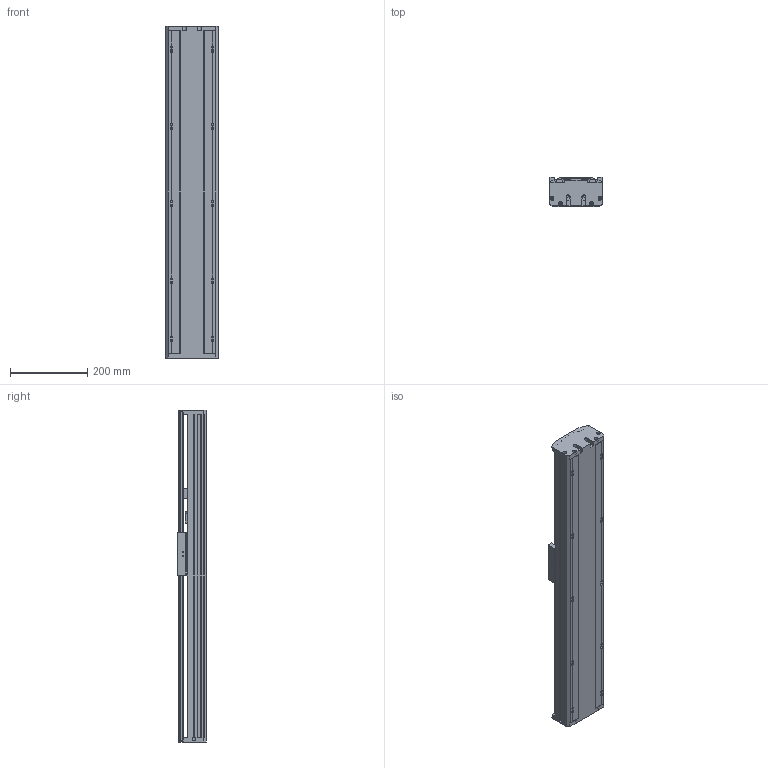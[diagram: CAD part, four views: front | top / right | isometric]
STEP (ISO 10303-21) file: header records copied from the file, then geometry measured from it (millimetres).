
FILE_DESCRIPTION(/* description */ (''),/* implementation_level */ '2;1');
FILE_NAME(/* name */ 'TKA136-FI-400_asm1.stp',/* time_stamp */ '2016-05-07T10:21:15+08:00',/* author */ (''),/* organization */ (''),/* preprocessor_version */ 'ST-DEVELOPER v15',/* originating_system */ 'SIEMENS PLM Software NX 8.5',/* authorisation */ '');
FILE_SCHEMA (('AUTOMOTIVE_DESIGN { 1 0 10303 214 3 1 1 1 }'));
Length unit declared in the file: millimetre
Products named in the file (3): 100-02; 100-01; TKA136-FI-400_asm1
Assembly tree (2 placements, depth 2):
  TKA136-FI-400_asm1
    100-01
    100-02
Bounding box: 136 x 75 x 859 mm (x, y, z)
Volume: 2784577.6 mm3; surface area: 1030868.9 mm2
Topology: 2 solids, 12 shells, 937 faces, 2672 edges, 1751 vertices
Faces by surface type: cylinder 453, plane 434, cone 50
Full cylindrical faces by diameter (mm): 2.5 x4, 3.3 x8, 4.2 x8, 4.5 x20, 5 x8, 5.5 x14, 8 x20, 10 x9, 10.5 x4, 11.6 x1, 12 x8, 15 x3, 16 x5, 24 x3, 26 x1, 28 x1, 46 x1
Entity records: 32363 total; most frequent: CARTESIAN_POINT 8345, DIRECTION 4928, ORIENTED_EDGE 4900, EDGE_CURVE 2450, AXIS2_PLACEMENT_3D 1828, VERTEX_POINT 1703, LINE 1272, VECTOR 1272
